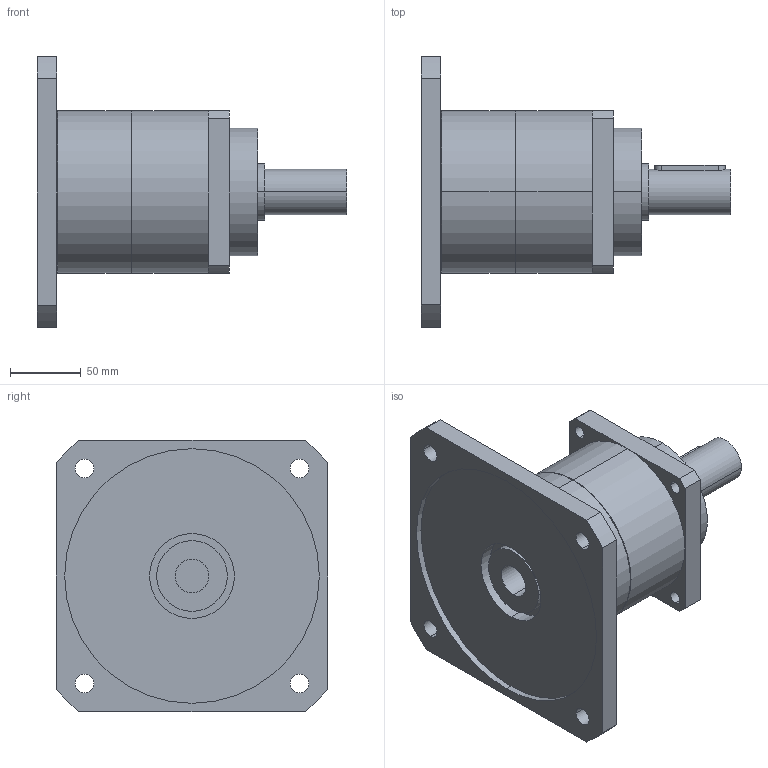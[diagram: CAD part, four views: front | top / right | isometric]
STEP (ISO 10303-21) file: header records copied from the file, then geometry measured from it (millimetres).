
FILE_DESCRIPTION(('CoCreate Modeling STEP Export'),'2;1');
FILE_NAME('GPT120_ig-3-4-5-7-10_32_B5A_24_P09.stp','2015-02-04T16:59:48',(''),(''),'CoCreate Modeling STEP processor for AP214 (Solid Model)','CoCreate Modeling 16.00C 25-Feb-2009 (C) Parametric Technology GmbH','');
FILE_SCHEMA(('AUTOMOTIVE_DESIGN { 1 0 10303 214 1 1 1 1 }'));
Length unit declared in the file: millimetre
Products named in the file (2): GPT120_ig-3-4-5-7-10_32_B5A_24_P09
Assembly tree (1 placements, depth 2):
  GPT120_ig-3-4-5-7-10_32_B5A_24_P09
    GPT120_ig-3-4-5-7-10_32_B5A_24_P09
Bounding box: 219 x 192 x 192 mm (x, y, z)
Volume: 1832995.9 mm3; surface area: 159922.6 mm2
Topology: 1 solids, 1 shells, 77 faces, 204 edges, 139 vertices
Faces by surface type: cylinder 46, plane 27, cone 4
Entity records: 2568 total; most frequent: CARTESIAN_POINT 759, ORIENTED_EDGE 408, DIRECTION 320, EDGE_CURVE 204, VERTEX_POINT 139, AXIS2_PLACEMENT_3D 118, EDGE_LOOP 103, VECTOR 84
